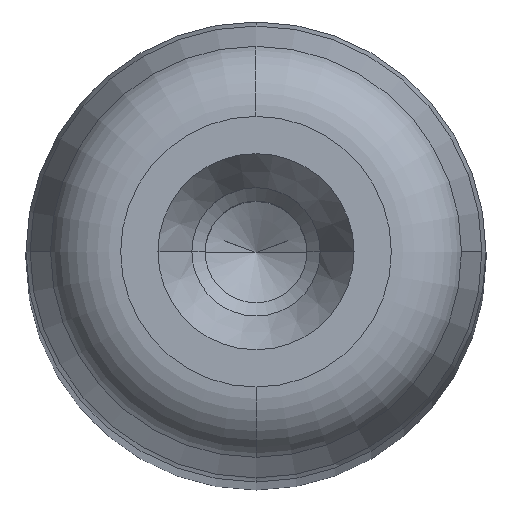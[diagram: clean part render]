
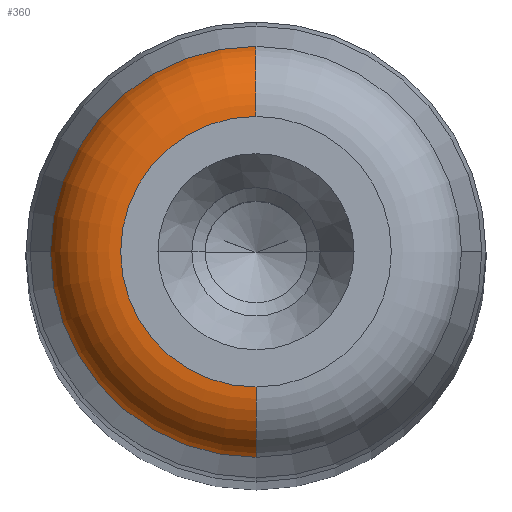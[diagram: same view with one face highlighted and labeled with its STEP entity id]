
A CAD part, top view. The second image highlights one B-rep face of the part: STEP entity #360.
In plain terms, the highlighted toroidal (fillet/blend) face has major radius 5.59 mm and minor radius 3 mm.
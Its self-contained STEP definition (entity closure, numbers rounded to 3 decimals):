
#308=CARTESIAN_POINT('',(0.0,197.0,0.0));
#309=DIRECTION('',(0.0,1.0,0.0));
#310=DIRECTION('',(0.0,0.0,1.0));
#311=AXIS2_PLACEMENT_3D('',#308,#309,#310);
#312=TOROIDAL_SURFACE('',#311,5.59,3.0);
#313=CARTESIAN_POINT('',(0.0,200.0,5.59));
#314=VERTEX_POINT('',#313);
#315=CARTESIAN_POINT('',(0.0,197.776,8.488));
#316=VERTEX_POINT('',#315);
#317=CARTESIAN_POINT('',(0.0,197.0,5.59));
#318=DIRECTION('',(1.0,0.0,0.0));
#319=DIRECTION('',(0.0,0.0,1.0));
#320=AXIS2_PLACEMENT_3D('',#317,#318,#319);
#321=CIRCLE('',#320,3.);
#322=EDGE_CURVE('',#314,#316,#321,.T.);
#323=ORIENTED_EDGE('',*,*,#322,.F.);
#324=CARTESIAN_POINT('',(0.,200.0,-5.59));
#325=VERTEX_POINT('',#324);
#326=CARTESIAN_POINT('',(0.0,200.0,0.0));
#327=DIRECTION('',(0.0,1.0,0.0));
#328=DIRECTION('',(1.0,0.0,0.0));
#329=AXIS2_PLACEMENT_3D('',#326,#327,#328);
#330=CIRCLE('',#329,5.59);
#331=EDGE_CURVE('',#325,#314,#330,.T.);
#332=ORIENTED_EDGE('',*,*,#331,.F.);
#333=CARTESIAN_POINT('',(0.,197.776,-8.488));
#334=VERTEX_POINT('',#333);
#335=CARTESIAN_POINT('',(0.,197.0,-5.59));
#336=DIRECTION('',(-1.0,0.0,0.0));
#337=DIRECTION('',(0.0,0.0,-1.0));
#338=AXIS2_PLACEMENT_3D('',#335,#336,#337);
#339=CIRCLE('',#338,3.);
#340=EDGE_CURVE('',#325,#334,#339,.T.);
#341=ORIENTED_EDGE('',*,*,#340,.T.);
#342=CARTESIAN_POINT('',(-8.488,197.776,0.));
#343=VERTEX_POINT('',#342);
#344=CARTESIAN_POINT('',(0.0,197.776,0.0));
#345=DIRECTION('',(0.0,1.0,0.0));
#346=DIRECTION('',(1.0,0.0,0.0));
#347=AXIS2_PLACEMENT_3D('',#344,#345,#346);
#348=CIRCLE('',#347,8.488);
#349=EDGE_CURVE('',#334,#343,#348,.T.);
#350=ORIENTED_EDGE('',*,*,#349,.T.);
#351=CARTESIAN_POINT('',(0.0,197.776,0.0));
#352=DIRECTION('',(0.0,1.0,0.0));
#353=DIRECTION('',(1.0,0.0,0.0));
#354=AXIS2_PLACEMENT_3D('',#351,#352,#353);
#355=CIRCLE('',#354,8.488);
#356=EDGE_CURVE('',#343,#316,#355,.T.);
#357=ORIENTED_EDGE('',*,*,#356,.T.);
#358=EDGE_LOOP('',(#323,#332,#341,#350,#357));
#359=FACE_OUTER_BOUND('',#358,.T.);
#360=ADVANCED_FACE('',(#359),#312,.T.);
